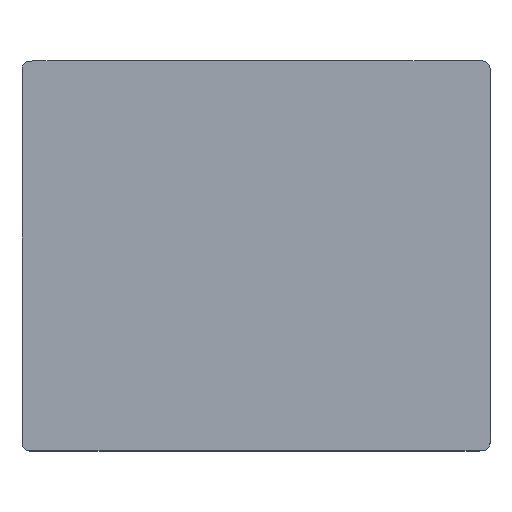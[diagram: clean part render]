
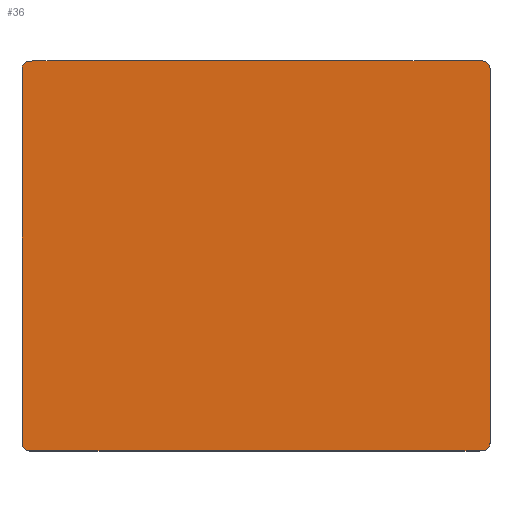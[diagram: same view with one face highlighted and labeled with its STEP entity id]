
A CAD part, top view. The second image highlights one B-rep face of the part: STEP entity #36.
In plain terms, the highlighted planar face has unit normal (0, 0, 1).
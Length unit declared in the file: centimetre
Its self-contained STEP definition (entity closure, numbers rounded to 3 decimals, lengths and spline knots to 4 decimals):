
#36=ADVANCED_FACE($,(#54),#223,.T.);
#54=FACE_OUTER_BOUND($,#72,.T.);
#72=EDGE_LOOP($,(#140,#141));
#140=ORIENTED_EDGE($,*,*,#178,.T.);
#141=ORIENTED_EDGE($,*,*,#181,.T.);
#178=EDGE_CURVE($,#203,#205,#255,.T.);
#181=EDGE_CURVE($,#205,#203,#257,.T.);
#203=VERTEX_POINT($,#783);
#205=VERTEX_POINT($,#785);
#223=PLANE($,#351);
#255=(
BOUNDED_CURVE()
B_SPLINE_CURVE(2,(#715,#716,#717,#718,#719,#720,#721,#722,#723),.UNSPECIFIED.,
.F.,.F.)
B_SPLINE_CURVE_WITH_KNOTS((3,2,2,2,3),(2182.8319,2214.2478,3374.2478,
3405.6637,4365.6637),.UNSPECIFIED.)
CURVE()
GEOMETRIC_REPRESENTATION_ITEM()
RATIONAL_B_SPLINE_CURVE((1.,0.707,1.,1.,1.,0.707,
1.,1.,1.))
REPRESENTATION_ITEM($)
);
#257=(
BOUNDED_CURVE()
B_SPLINE_CURVE(2,(#735,#736,#737,#738,#739,#740,#741,#742,#743),.UNSPECIFIED.,
.F.,.F.)
B_SPLINE_CURVE_WITH_KNOTS((3,2,2,2,3),(4365.6637,4397.0796,5557.0796,
5588.4956,6548.4956),.UNSPECIFIED.)
CURVE()
GEOMETRIC_REPRESENTATION_ITEM()
RATIONAL_B_SPLINE_CURVE((1.,0.707,1.,1.,1.,0.707,
1.,1.,1.))
REPRESENTATION_ITEM($)
);
#351=AXIS2_PLACEMENT_3D($,#763,#360,$);
#360=DIRECTION($,(0.,0.,1.));
#715=CARTESIAN_POINT($,(-8.6799,-4.5054,41.7));
#716=CARTESIAN_POINT($,(-8.6799,-6.5054,41.7));
#717=CARTESIAN_POINT($,(-6.6799,-6.5054,41.7));
#718=CARTESIAN_POINT($,(51.3201,-6.5054,41.7));
#719=CARTESIAN_POINT($,(109.3201,-6.5054,41.7));
#720=CARTESIAN_POINT($,(111.3201,-6.5054,41.7));
#721=CARTESIAN_POINT($,(111.3201,-4.5054,41.7));
#722=CARTESIAN_POINT($,(111.3201,43.4946,41.7));
#723=CARTESIAN_POINT($,(111.3201,91.4946,41.7));
#735=CARTESIAN_POINT($,(111.3201,91.4946,41.7));
#736=CARTESIAN_POINT($,(111.3201,93.4946,41.7));
#737=CARTESIAN_POINT($,(109.3201,93.4946,41.7));
#738=CARTESIAN_POINT($,(51.3201,93.4946,41.7));
#739=CARTESIAN_POINT($,(-6.6799,93.4946,41.7));
#740=CARTESIAN_POINT($,(-8.6799,93.4946,41.7));
#741=CARTESIAN_POINT($,(-8.6799,91.4946,41.7));
#742=CARTESIAN_POINT($,(-8.6799,43.4946,41.7));
#743=CARTESIAN_POINT($,(-8.6799,-4.5054,41.7));
#763=CARTESIAN_POINT($,(-8.6799,-6.5054,41.7));
#783=CARTESIAN_POINT($,(-8.6799,-4.5054,41.7));
#785=CARTESIAN_POINT($,(111.3201,91.4946,41.7));
